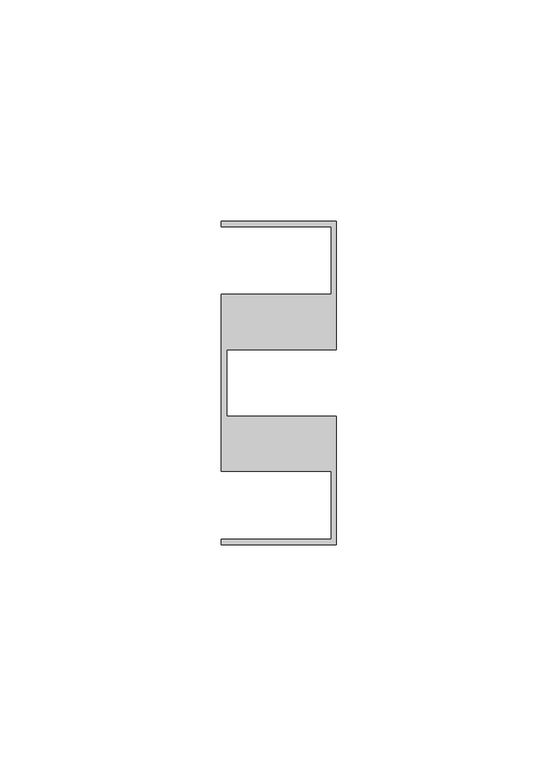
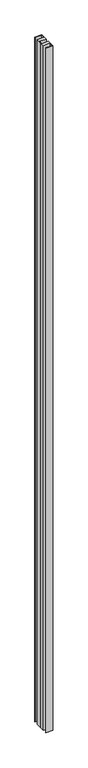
"""IFC4 building model written with IfcOpenShell, lengths in millimetres: member geometry, Прямоугольный импост : 10-AMG-2-Профиль 26Х73 Верх П."""

from ifc_helpers import new_model, si_unit, frame, origin, place, context, project, spatial, polyline, outline, extrude, source, transform, mapped, element, save


def member_a0eec1e8(model_context):
    return source(origin(), model_context, "Body", "SweptSolid", [
        extrude(outline(polyline([(-26.0, 36.5), (0.0, 36.5), (0.0, 7.5116043), (-24.8, 7.5116043), (-24.8, 0.0), (-24.8, -7.5116043), (0.0, -7.5116043), (0.0, -36.5), (-26.0, -36.5), (-26.0, -35.3116043), (-1.2, -35.3116043), (-1.2, -20.0), (-26.0, -20.0), (-26.0, 0.0), (-26.0, 20.0), (-1.2, 20.0), (-1.2, 35.3), (-26.0, 35.3), (-26.0, 36.5)])), frame((0.0, 0.0, -2774.0), z_axis=(0.0, 0.0, 1.0), x_axis=(1.0, 0.0, 0.0)), (0.0, 0.0, 1.0), 2774.0),
    ])


if __name__ == "__main__":
    model = new_model("IFC4")
    model_context = context("Model", 3, world=origin())
    ifc_project = project(units=[si_unit("LENGTHUNIT", "METRE", prefix="MILLI")], contexts=[model_context])
    site = spatial("IfcSite", under=ifc_project)
    building = spatial("IfcBuilding", under=site)
    placement = place(None, origin())
    member_shape = member_a0eec1e8(model_context)
    element("IfcMember", 1, ObjectType="Прямоугольный импост : 10-AMG-2-Профиль 26Х73 Верх П", at=placement, inside=building, context=model_context, shape_type="MappedRepresentation", body=[
        mapped(member_shape, transform((0.0, 0.0, 0.0), x_axis=(1.0, 0.0, 0.0), y_axis=(0.0, 1.0, 0.0), z_axis=(0.0, 0.0, 1.0))),
    ])
    save(model, "model.ifc")
